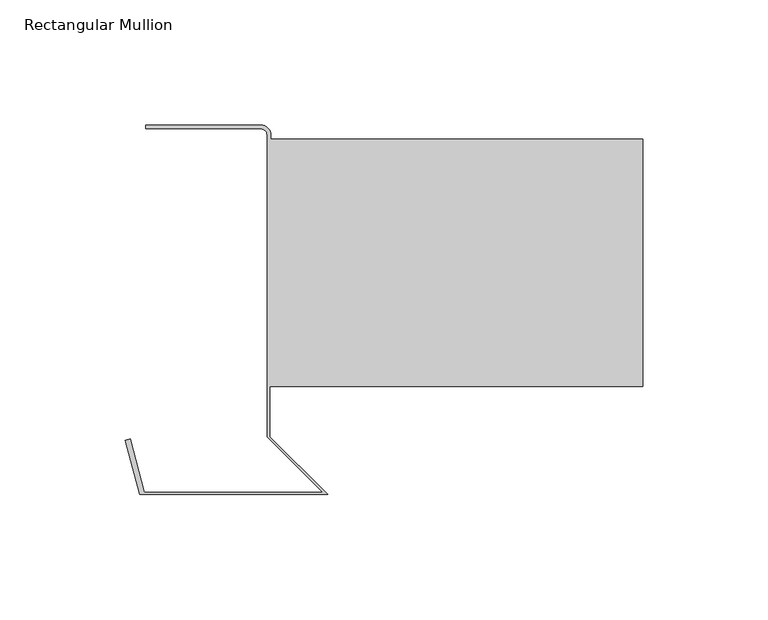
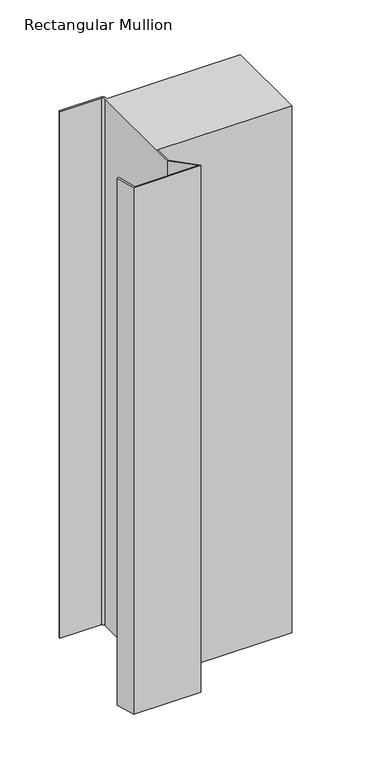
"""IFC4 building model written with IfcOpenShell, lengths in millimetres: member geometry, Rectangular Mullion : TE-V-02_01_Base detail i."""

from ifc_helpers import new_model, si_unit, point, frame, frame_2d, origin, place, context, project, spatial, polyline, circle_curve, trimmed, segment, composite_curve, outline, extrude, source, transform, mapped, element, save


def rectangular_mullion_2001938f(model_context):
    return source(origin(), model_context, "Body", "SweptSolid", [
        extrude(outline(composite_curve([segment(polyline([(-148.8686292, 20.0), (-148.8686292, 0.0), (-125.8686292, -23.0), (-200.8686292, -23.0), (-206.6383068, -1.4672699), (-204.7064551, -0.9496318), (-199.0124361, -22.2), (-127.8, -22.2), (-150.0, 0.0), (-150.0, 120.5)]), True, "CONTINUOUS"), segment(trimmed(circle_curve(frame_2d((-152.5, 120.5)), 2.5), [point((-150.0, 120.5))], [point((-152.5, 123.0))], True, "CARTESIAN"), True, "CONTINUOUS"), segment(polyline([(-152.5, 123.0), (-198.5, 123.0), (-198.5, 124.5), (-152.5, 124.5)]), True, "CONTINUOUS"), segment(trimmed(circle_curve(frame_2d((-152.5, 120.5)), 4.0), [point((-152.5, 124.5))], [point((-148.5, 120.5))], False, "CARTESIAN"), True, "CONTINUOUS"), segment(polyline([(-148.5, 120.5), (-148.5, 119.0), (0.0, 119.0), (0.0, 20.0), (-148.8686292, 20.0)]), True, "CONTINUOUS")], self_intersect=False)), frame((0.0, 0.0, -619.9999997), z_axis=(0.0, 0.0, 1.0), x_axis=(1.0, 0.0, 0.0)), (0.0, 0.0, 1.0), 619.9999997),
    ])


if __name__ == "__main__":
    model = new_model("IFC4")
    model_context = context("Model", 3, world=origin())
    ifc_project = project(units=[si_unit("LENGTHUNIT", "METRE", prefix="MILLI")], contexts=[model_context])
    site = spatial("IfcSite", under=ifc_project)
    building = spatial("IfcBuilding", under=site)
    placement = place(None, origin())
    rectangular_mullion_shape = rectangular_mullion_2001938f(model_context)
    element("IfcMember", 1, ObjectType="Rectangular Mullion : TE-V-02_01_Base detail i", at=placement, inside=building, context=model_context, shape_type="MappedRepresentation", body=[
        mapped(rectangular_mullion_shape, transform((0.0, 0.0, 0.0), x_axis=(1.0, 0.0, 0.0), y_axis=(0.0, 1.0, 0.0), z_axis=(0.0, 0.0, 1.0))),
    ])
    save(model, "model.ifc")
